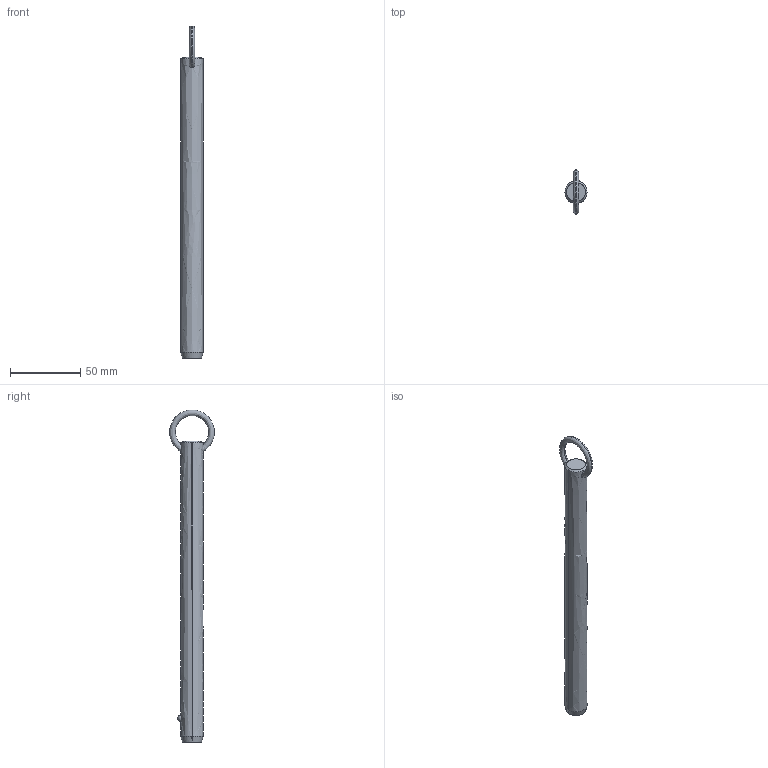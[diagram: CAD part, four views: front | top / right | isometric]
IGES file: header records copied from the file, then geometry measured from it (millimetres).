
Start section: SolidWorks IGES file using analytic representation for surfaces
Global section: file name: C:\Users\liam_\OneDrive\Documents\WORK\Work for WixRoyd\Job Files\J-00019 - Matt Davis CAD Checking\04. CAD Drawings\automotion20190605\P1250.2_v2\P1250.2_v2_20190729_IGES\P1250.062-730.igs; native system: SolidWorks 2017; preprocessor: SolidWorks 2017; author: liam_; date: 190729.234441; units: millimetre
Bounding box: 15.8 x 31.7 x 236.08 mm (x, y, z)
Surface area: 11791.2 mm2 (no closed solid volume)
Topology: 0 solids, 0 shells, 12 faces, 292 edges, 290 vertices
Faces by surface type: revolution 8, bspline 4
